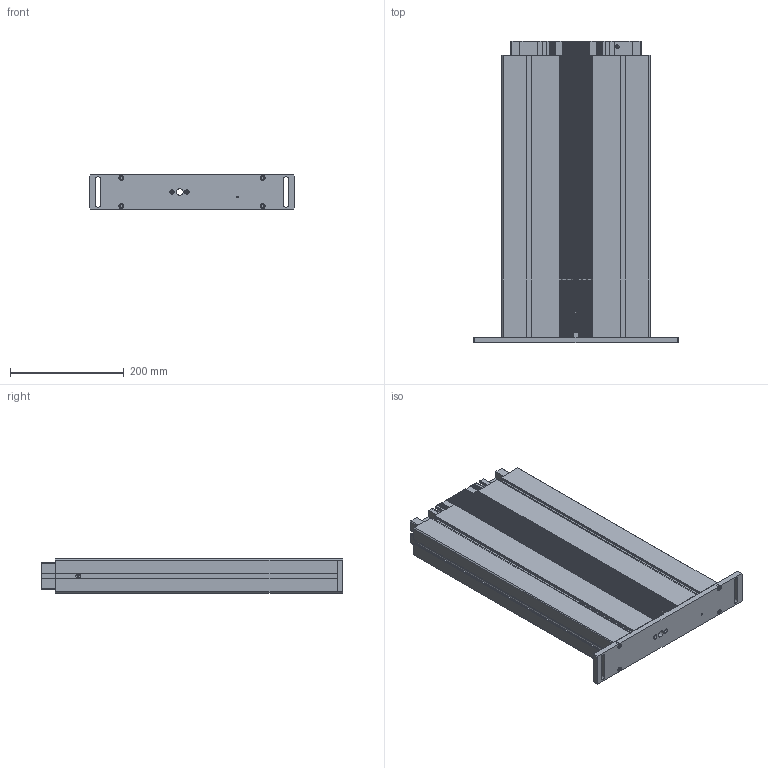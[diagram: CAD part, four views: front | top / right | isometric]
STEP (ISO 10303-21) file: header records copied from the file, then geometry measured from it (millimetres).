
FILE_DESCRIPTION (( 'STEP AP203' ), '1' );
FILE_NAME ('901.00003_eingefahren.STEP', '2018-11-27T16:36:40', ( '' ), ( '' ), 'SwSTEP 2.0', 'SolidWorks 2015', '' );
FILE_SCHEMA (( 'CONFIG_CONTROL_DESIGN' ));
Length unit declared in the file: millimetre
Products named in the file (15): 142.00188; 119.00304; 142.00166; 901.00003_eingefahren; 126.00137; 119.00305
Assembly tree (9 placements, depth 2):
  142.00188
  142.00188
  142.00166
  142.00166
  901.00003_eingefahren
    126.00137
    119.00305
    119.00304
    142.00166  x4
    142.00188  x2
Bounding box: 360 x 530 x 60 mm (x, y, z)
Volume: 3138647.6 mm3; surface area: 1666686.6 mm2
Topology: 9 solids, 9 shells, 2371 faces, 6987 edges, 4648 vertices
Faces by surface type: plane 1406, cylinder 935, bspline 16, cone 14
Entity records: 79221 total; most frequent: CARTESIAN_POINT 15619, ORIENTED_EDGE 13654, DIRECTION 12629, EDGE_CURVE 6827, LINE 4701, VECTOR 4701, VERTEX_POINT 4548, AXIS2_PLACEMENT_3D 3964
